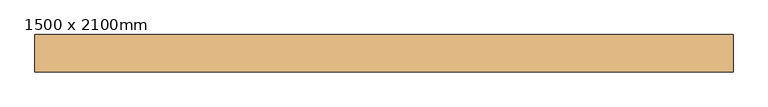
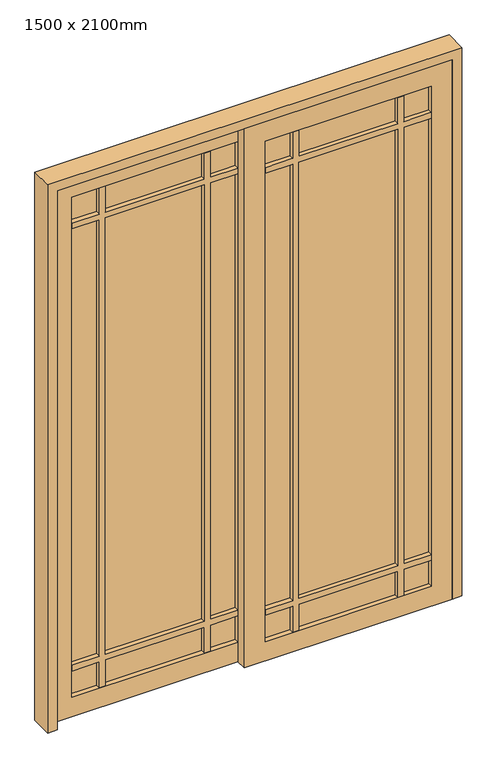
"""IFC4 building model written with IfcOpenShell, lengths in millimetres: door geometry, 双扇推拉门 : 1500 x 2100mm."""

import ifcopenshell
import ifcopenshell.guid

model = None  # the IFC model being written
_history = None  # IfcOwnerHistory: only IFC2X3 demands one
_inside = {}  # id of a spatial element -> (the spatial element, [elements in it])
_under = {}  # id of a project, library or spatial element -> (it, [spatial elements below it])
_declared = {}  # id of a project -> (the project, [libraries it declares])
_typed = {}  # id of a type object -> (the type object, [elements of that type])
_made_of = {}  # id of a material, layer set ... -> (it, [elements and type objects made of it])


def new_model(schema):
    """Start an empty IFC model of exactly this schema.

    Asked for "IFC4X3", IfcOpenShell would pick the latest addendum, in which some entities
    have other attributes; the version numbers below select the first issue.
    IFC2X3 requires an IfcOwnerHistory on every rooted entity: one is made here for all.
    """
    global model, _history
    if schema == "IFC4X3":
        model = ifcopenshell.file(schema_version=(4, 3, 0, 0))
    else:
        model = ifcopenshell.file(schema=schema)
    _inside.clear()
    _under.clear()
    _declared.clear()
    _typed.clear()
    _made_of.clear()
    _history = None
    if model.schema == "IFC2X3":
        org = make("IfcOrganization", Name="unknown")
        user = make(
            "IfcPersonAndOrganization",
            ThePerson=make("IfcPerson", FamilyName="unknown"),
            TheOrganization=org,
        )
        app = make(
            "IfcApplication",
            ApplicationDeveloper=org,
            Version="unknown",
            ApplicationFullName="unknown",
            ApplicationIdentifier="unknown",
        )
        _history = make(
            "IfcOwnerHistory",
            OwningUser=user,
            OwningApplication=app,
            ChangeAction="ADDED",
            CreationDate=0,
        )
    return model


def make(cls, **values):
    """One entity of the class cls with the attributes given. An attribute that is None is left unset."""
    return model.create_entity(
        cls, **{name: value for name, value in values.items() if value is not None}
    )


def rooted(cls, **values):
    """An entity with a GlobalId (a new one), such as an element, a storey or a relation."""
    return make(cls, GlobalId=ifcopenshell.guid.new(), OwnerHistory=_history, **values)


def si_unit(unit_type, name, prefix=None):
    """IfcSIUnit, for example si_unit("LENGTHUNIT", "METRE", prefix="MILLI")."""
    return make("IfcSIUnit", UnitType=unit_type, Prefix=prefix, Name=name)


def assignment(units):
    """IfcUnitAssignment: the units of a project."""
    return None if units is None else make("IfcUnitAssignment", Units=units)


def point(xyz):
    """IfcCartesianPoint."""
    return None if xyz is None else make("IfcCartesianPoint", Coordinates=xyz)


def direction(xyz):
    """IfcDirection."""
    return None if xyz is None else make("IfcDirection", DirectionRatios=xyz)


def frame(location, z_axis=None, x_axis=None):
    """IfcAxis2Placement3D, a coordinate frame: its origin and axes. An axis left out is left unset."""
    return make(
        "IfcAxis2Placement3D",
        Location=point(location),
        Axis=direction(z_axis),
        RefDirection=direction(x_axis),
    )


def origin():
    """The frame at (0, 0, 0) with its axes left unset."""
    return frame((0.0, 0.0, 0.0))


def place(relative_to, where):
    """IfcLocalPlacement: puts the frame where relative to a parent placement (None: the world)."""
    return make(
        "IfcLocalPlacement", PlacementRelTo=relative_to, RelativePlacement=where
    )


def context(
    kind, dimensions, precision=None, world=None, true_north=None, identifier=None
):
    """IfcGeometricRepresentationContext, for example the 3D "Model" context."""
    return make(
        "IfcGeometricRepresentationContext",
        ContextIdentifier=identifier,
        ContextType=kind,
        CoordinateSpaceDimension=dimensions,
        Precision=precision,
        WorldCoordinateSystem=world,
        TrueNorth=true_north,
    )


def project(units=None, contexts=None):
    """IfcProject with its units and contexts."""
    return rooted(
        "IfcProject",
        Name="project",
        RepresentationContexts=contexts,
        UnitsInContext=assignment(units),
    )


def spatial(cls, under=None, at=None, **own):
    """A site, building, storey or space (cls), placed at a placement, below another one or the project."""
    s = rooted(cls, ObjectPlacement=at, **own)
    if under is not None:
        _under.setdefault(under.id(), (under, []))[1].append(s)
    return s


def polyline(points):
    """IfcPolyline through the points."""
    return make("IfcPolyline", Points=[point(p) for p in points])


def outline(outer, holes=None, kind="AREA"):
    """IfcArbitraryClosedProfileDef: a profile drawn as a closed curve; with holes, ...WithVoids."""
    if holes is None:
        return make("IfcArbitraryClosedProfileDef", ProfileType=kind, OuterCurve=outer)
    return make(
        "IfcArbitraryProfileDefWithVoids",
        ProfileType=kind,
        OuterCurve=outer,
        InnerCurves=holes,
    )


def extrude(swept, where, along, depth):
    """IfcExtrudedAreaSolid: the profile swept, set in the frame where, extruded along a direction by depth."""
    return make(
        "IfcExtrudedAreaSolid",
        SweptArea=swept,
        Position=where,
        ExtrudedDirection=direction(along),
        Depth=depth,
    )


def shape(context_of_items, identifier, shape_type, items):
    """IfcShapeRepresentation: the items that make up one representation, for example the "Body"."""
    return make(
        "IfcShapeRepresentation",
        ContextOfItems=context_of_items,
        RepresentationIdentifier=identifier,
        RepresentationType=shape_type,
        Items=items,
    )


def source(mapping_origin, context_of_items, identifier, shape_type, items):
    """IfcRepresentationMap: a shape defined once, which mapped items show again and again."""
    return make(
        "IfcRepresentationMap",
        MappingOrigin=mapping_origin,
        MappedRepresentation=shape(context_of_items, identifier, shape_type, items),
    )


def transform(
    local_origin,
    x_axis=None,
    y_axis=None,
    z_axis=None,
    scale=None,
    scale2=None,
    scale3=None,
    uniform=True,
):
    """IfcCartesianTransformationOperator3D, or its non-uniform kind. x_axis, y_axis, z_axis: its Axis1, 2, 3."""
    if uniform:
        return make(
            "IfcCartesianTransformationOperator3D",
            Axis1=direction(x_axis),
            Axis2=direction(y_axis),
            LocalOrigin=point(local_origin),
            Scale=scale,
            Axis3=direction(z_axis),
        )
    return make(
        "IfcCartesianTransformationOperator3DnonUniform",
        Axis1=direction(x_axis),
        Axis2=direction(y_axis),
        LocalOrigin=point(local_origin),
        Scale=scale,
        Axis3=direction(z_axis),
        Scale2=scale2,
        Scale3=scale3,
    )


def mapped(mapping_source, mapping_target):
    """IfcMappedItem: shows the shape of a source again, moved by a transform."""
    return make(
        "IfcMappedItem", MappingSource=mapping_source, MappingTarget=mapping_target
    )


def made_of(thing, what):
    """Note that an element or type object is made of a material, layer set ...; save() writes the relation."""
    if what is not None:
        _made_of.setdefault(what.id(), (what, []))[1].append(thing)
    return thing


def element(
    cls,
    number,
    at=None,
    inside=None,
    cuts=None,
    type_object=None,
    material=None,
    context=None,
    identifier="Body",
    shape_type=None,
    held_by="IfcProductDefinitionShape",
    body=None,
    shapes=None,
    **own,
):
    """One element of the class cls, such as IfcWall. Its Tag is "e" and its number.

    at: its placement. inside: the storey or other place that contains it. cuts: it is an
    opening in that element (IfcRelVoidsElement). A single representation is given by context,
    identifier, shape_type and body (its items); several are given by shapes. held_by: the class
    of the entity that holds the representations. save() writes the other relations.
    """
    e = rooted(cls, Tag="e%d" % number, ObjectPlacement=at, **own)
    if body is not None:
        shapes = [shape(context, identifier, shape_type, body)]
    if shapes is not None:
        e.Representation = make(held_by, Representations=shapes)
    if inside is not None:
        _inside.setdefault(inside.id(), (inside, []))[1].append(e)
    if cuts is not None:
        rooted(
            "IfcRelVoidsElement", RelatingBuildingElement=cuts, RelatedOpeningElement=e
        )
    if type_object is not None:
        _typed.setdefault(type_object.id(), (type_object, []))[1].append(e)
    return made_of(e, material)


def aggregate(whole, parts):
    """IfcRelAggregates: a whole, such as a stair, and the parts it consists of."""
    return rooted("IfcRelAggregates", RelatingObject=whole, RelatedObjects=parts)


def save(model, path):
    """Write the relations noted so far, then the file.

    IfcRelAggregates (storeys below a building ...), IfcRelContainedInSpatialStructure (elements
    in a storey), IfcRelDefinesByType, IfcRelAssociatesMaterial and IfcRelDeclares: one each for
    every whole, place, type object, material and project.
    """
    for whole, parts in _under.values():
        aggregate(whole, parts)
    for where, things in _inside.values():
        rooted(
            "IfcRelContainedInSpatialStructure",
            RelatedElements=things,
            RelatingStructure=where,
        )
    for kind, things in _typed.values():
        rooted("IfcRelDefinesByType", RelatedObjects=things, RelatingType=kind)
    for what, things in _made_of.values():
        rooted("IfcRelAssociatesMaterial", RelatedObjects=things, RelatingMaterial=what)
    for by, libraries in _declared.values():
        rooted("IfcRelDeclares", RelatingContext=by, RelatedDefinitions=libraries)
    model.write(path)


def door_1500_x_2100mm_4734d329(model_context):
    return source(origin(), model_context, "Body", "SweptSolid", [
        extrude(outline(polyline([(2065.0, -715.0), (0.0, -715.0), (0.0, 37.5), (2065.0, 37.5), (2065.0, -715.0)]), holes=[polyline([(1990.0, -640.0), (1990.0, -37.5), (75.0, -37.5), (75.0, -640.0), (1990.0, -640.0)])]), frame((0.0, 0.0, 0.0), z_axis=(0.0, 1.0, 0.0), x_axis=(0.0, 0.0, 1.0)), (0.0, 0.0, 1.0), 40.0),
        extrude(outline(polyline([(2065.0, -37.5), (0.0, -37.5), (0.0, 715.0), (2065.0, 715.0), (2065.0, -37.5)]), holes=[polyline([(1990.0, 37.5), (1990.0, 640.0), (75.0, 640.0), (75.0, 37.5), (1990.0, 37.5)])]), frame((0.0, -40.0, 0.0), z_axis=(0.0, 1.0, 0.0), x_axis=(0.0, 0.0, 1.0)), (0.0, 0.0, 1.0), 40.0),
        extrude(outline(polyline([(640.0, -23.0), (540.0, -23.0), (540.0, -17.0), (640.0, -17.0), (640.0, -23.0)])), frame((0.0, 0.0, 1890.0), z_axis=(0.0, 0.0, 1.0), x_axis=(1.0, 0.0, 0.0)), (0.0, 0.0, 1.0), 100.0),
        extrude(outline(polyline([(518.0, -23.0), (159.5, -23.0), (159.5, -17.0), (518.0, -17.0), (518.0, -23.0)])), frame((0.0, 0.0, 1890.0), z_axis=(0.0, 0.0, 1.0), x_axis=(1.0, 0.0, 0.0)), (0.0, 0.0, 1.0), 100.0),
        extrude(outline(polyline([(137.5, -23.0), (37.5, -23.0), (37.5, -17.0), (137.5, -17.0), (137.5, -23.0)])), frame((0.0, 0.0, 1890.0), z_axis=(0.0, 0.0, 1.0), x_axis=(1.0, 0.0, 0.0)), (0.0, 0.0, 1.0), 100.0),
        extrude(outline(polyline([(137.5, -23.0), (37.5, -23.0), (37.5, -17.0), (137.5, -17.0), (137.5, -23.0)])), frame((0.0, 0.0, 197.0), z_axis=(0.0, 0.0, 1.0), x_axis=(1.0, 0.0, 0.0)), (0.0, 0.0, 1.0), 1671.0),
        extrude(outline(polyline([(518.0, -23.0), (159.5, -23.0), (159.5, -17.0), (518.0, -17.0), (518.0, -23.0)])), frame((0.0, 0.0, 197.0), z_axis=(0.0, 0.0, 1.0), x_axis=(1.0, 0.0, 0.0)), (0.0, 0.0, 1.0), 1671.0),
        extrude(outline(polyline([(640.0, -23.0), (540.0, -23.0), (540.0, -17.0), (640.0, -17.0), (640.0, -23.0)])), frame((0.0, 0.0, 197.0), z_axis=(0.0, 0.0, 1.0), x_axis=(1.0, 0.0, 0.0)), (0.0, 0.0, 1.0), 1671.0),
        extrude(outline(polyline([(640.0, -23.0), (540.0, -23.0), (540.0, -17.0), (640.0, -17.0), (640.0, -23.0)])), frame((0.0, 0.0, 75.0), z_axis=(0.0, 0.0, 1.0), x_axis=(1.0, 0.0, 0.0)), (0.0, 0.0, 1.0), 100.0),
        extrude(outline(polyline([(518.0, -23.0), (159.5, -23.0), (159.5, -17.0), (518.0, -17.0), (518.0, -23.0)])), frame((0.0, 0.0, 75.0), z_axis=(0.0, 0.0, 1.0), x_axis=(1.0, 0.0, 0.0)), (0.0, 0.0, 1.0), 100.0),
        extrude(outline(polyline([(137.5, -23.0), (37.5, -23.0), (37.5, -17.0), (137.5, -17.0), (137.5, -23.0)])), frame((0.0, 0.0, 75.0), z_axis=(0.0, 0.0, 1.0), x_axis=(1.0, 0.0, 0.0)), (0.0, 0.0, 1.0), 100.0),
        extrude(outline(polyline([(-137.5, 23.0), (-37.5, 23.0), (-37.5, 17.0), (-137.5, 17.0), (-137.5, 23.0)])), frame((0.0, 0.0, 1890.0), z_axis=(0.0, 0.0, 1.0), x_axis=(1.0, 0.0, 0.0)), (0.0, 0.0, 1.0), 100.0),
        extrude(outline(polyline([(-518.0, 23.0), (-159.5, 23.0), (-159.5, 17.0), (-518.0, 17.0), (-518.0, 23.0)])), frame((0.0, 0.0, 1890.0), z_axis=(0.0, 0.0, 1.0), x_axis=(1.0, 0.0, 0.0)), (0.0, 0.0, 1.0), 100.0),
        extrude(outline(polyline([(-640.0, 23.0), (-540.0, 23.0), (-540.0, 17.0), (-640.0, 17.0), (-640.0, 23.0)])), frame((0.0, 0.0, 1890.0), z_axis=(0.0, 0.0, 1.0), x_axis=(1.0, 0.0, 0.0)), (0.0, 0.0, 1.0), 100.0),
        extrude(outline(polyline([(-137.5, 23.0), (-37.5, 23.0), (-37.5, 17.0), (-137.5, 17.0), (-137.5, 23.0)])), frame((0.0, 0.0, 197.0), z_axis=(0.0, 0.0, 1.0), x_axis=(1.0, 0.0, 0.0)), (0.0, 0.0, 1.0), 1671.0),
        extrude(outline(polyline([(-518.0, 23.0), (-159.5, 23.0), (-159.5, 17.0), (-518.0, 17.0), (-518.0, 23.0)])), frame((0.0, 0.0, 197.0), z_axis=(0.0, 0.0, 1.0), x_axis=(1.0, 0.0, 0.0)), (0.0, 0.0, 1.0), 1671.0),
        extrude(outline(polyline([(-640.0, 23.0), (-540.0, 23.0), (-540.0, 17.0), (-640.0, 17.0), (-640.0, 23.0)])), frame((0.0, 0.0, 197.0), z_axis=(0.0, 0.0, 1.0), x_axis=(1.0, 0.0, 0.0)), (0.0, 0.0, 1.0), 1671.0),
        extrude(outline(polyline([(-137.5, 23.0), (-37.5, 23.0), (-37.5, 17.0), (-137.5, 17.0), (-137.5, 23.0)])), frame((0.0, 0.0, 75.0), z_axis=(0.0, 0.0, 1.0), x_axis=(1.0, 0.0, 0.0)), (0.0, 0.0, 1.0), 100.0),
        extrude(outline(polyline([(-518.0, 23.0), (-159.5, 23.0), (-159.5, 17.0), (-518.0, 17.0), (-518.0, 23.0)])), frame((0.0, 0.0, 75.0), z_axis=(0.0, 0.0, 1.0), x_axis=(1.0, 0.0, 0.0)), (0.0, 0.0, 1.0), 100.0),
        extrude(outline(polyline([(-640.0, 23.0), (-540.0, 23.0), (-540.0, 17.0), (-640.0, 17.0), (-640.0, 23.0)])), frame((0.0, 0.0, 75.0), z_axis=(0.0, 0.0, 1.0), x_axis=(1.0, 0.0, 0.0)), (0.0, 0.0, 1.0), 100.0),
        extrude(outline(polyline([(1890.0, -159.5), (1890.0, -518.0), (1990.0, -518.0), (1990.0, -540.0), (1890.0, -540.0), (1890.0, -640.0), (1868.0, -640.0), (1868.0, -540.0), (197.0, -540.0), (197.0, -640.0), (175.0, -640.0), (175.0, -540.0), (75.0, -540.0), (75.0, -518.0), (175.0, -518.0), (175.0, -159.5), (75.0, -159.5), (75.0, -137.5), (175.0, -137.5), (175.0, -37.5), (197.0, -37.5), (197.0, -137.5), (1868.0, -137.5), (1868.0, -37.5), (1890.0, -37.5), (1890.0, -137.5), (1990.0, -137.5), (1990.0, -159.5), (1890.0, -159.5)]), holes=[polyline([(197.0, -518.0), (1868.0, -518.0), (1868.0, -159.5), (197.0, -159.5), (197.0, -518.0)])]), frame((0.0, 0.0, 0.0), z_axis=(0.0, 1.0, 0.0), x_axis=(0.0, 0.0, 1.0)), (0.0, 0.0, 1.0), 40.0),
        extrude(outline(polyline([(175.0, 540.0), (175.0, 640.0), (197.0, 640.0), (197.0, 540.0), (1868.0, 540.0), (1868.0, 640.0), (1890.0, 640.0), (1890.0, 540.0), (1990.0, 540.0), (1990.0, 518.0), (1890.0, 518.0), (1890.0, 159.5), (1990.0, 159.5), (1990.0, 137.5), (1890.0, 137.5), (1890.0, 37.5), (1868.0, 37.5), (1868.0, 137.5), (197.0, 137.5), (197.0, 37.5), (175.0, 37.5), (175.0, 137.5), (75.0, 137.5), (75.0, 159.5), (175.0, 159.5), (175.0, 518.0), (75.0, 518.0), (75.0, 540.0), (175.0, 540.0)]), holes=[polyline([(197.0, 518.0), (197.0, 159.5), (1868.0, 159.5), (1868.0, 518.0), (197.0, 518.0)])]), frame((0.0, -40.0, 0.0), z_axis=(0.0, 1.0, 0.0), x_axis=(0.0, 0.0, 1.0)), (0.0, 0.0, 1.0), 40.0),
        extrude(outline(polyline([(0.0, 715.0), (0.0, 750.0), (2100.0, 750.0), (2100.0, -750.0), (0.0, -750.0), (0.0, -715.0), (2065.0, -715.0), (2065.0, 715.0), (0.0, 715.0)])), frame((0.0, -40.0, 0.0), z_axis=(0.0, 1.0, 0.0), x_axis=(0.0, 0.0, 1.0)), (0.0, 0.0, 1.0), 80.0),
    ])


if __name__ == "__main__":
    model = new_model("IFC4")
    model_context = context("Model", 3, world=origin())
    ifc_project = project(units=[si_unit("LENGTHUNIT", "METRE", prefix="MILLI")], contexts=[model_context])
    site = spatial("IfcSite", under=ifc_project)
    building = spatial("IfcBuilding", under=site)
    placement = place(None, origin())
    door_1500_x_2100mm_shape = door_1500_x_2100mm_4734d329(model_context)
    element("IfcDoor", 1, ObjectType="双扇推拉门 : 1500 x 2100mm", at=placement, inside=building, context=model_context, shape_type="MappedRepresentation", body=[
        mapped(door_1500_x_2100mm_shape, transform((0.0, 0.0, 0.0), x_axis=(1.0, 0.0, 0.0), y_axis=(0.0, 1.0, 0.0), z_axis=(0.0, 0.0, 1.0))),
    ])
    save(model, "model.ifc")
